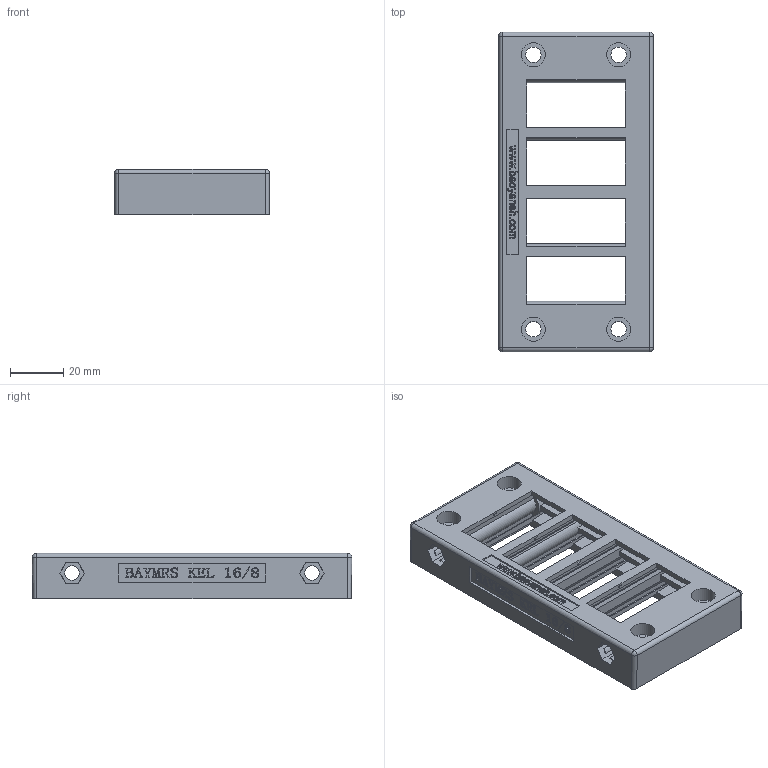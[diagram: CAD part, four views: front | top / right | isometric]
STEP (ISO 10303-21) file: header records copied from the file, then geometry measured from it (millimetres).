
FILE_DESCRIPTION(/* description */ (''),/* implementation_level */ '2;1');
FILE_NAME(/* name */ 'KEL 16-8.stp',/* time_stamp */ '2022-02-08T13:37:23+08:00',/* author */ (''),/* organization */ (''),/* preprocessor_version */ 'ST-DEVELOPER v16.7',/* originating_system */ 'SIEMENS PLM Software NX 12.0',/* authorisation */ '');
FILE_SCHEMA (('AP203_CONFIGURATION_CONTROLLED_3D_DESIGN_OF_MECHANICAL_PARTS_AND_ASSEMBLIES_MIM_LF { 1 0 10303 403 2 1 2}'));
Length unit declared in the file: millimetre
Products named in the file (1): Admi47008A4Dyr7i
Bounding box: 58 x 120 x 17 mm (x, y, z)
Volume: 50618.1 mm3; surface area: 34593.3 mm2
Topology: 1 solids, 6 shells, 1035 faces, 2991 edges, 2016 vertices
Faces by surface type: plane 568, extrusion 274, cylinder 112, cone 34, bspline 24, sphere 12, torus 11
Full cylindrical faces by diameter (mm): 3 x2, 5.5 x2, 5.8 x4, 9 x6
Entity records: 37838 total; most frequent: CARTESIAN_POINT 11701, ORIENTED_EDGE 5912, DIRECTION 4346, EDGE_CURVE 2956, VECTOR 2112, VERTEX_POINT 2010, LINE 1838, EDGE_LOOP 1142
